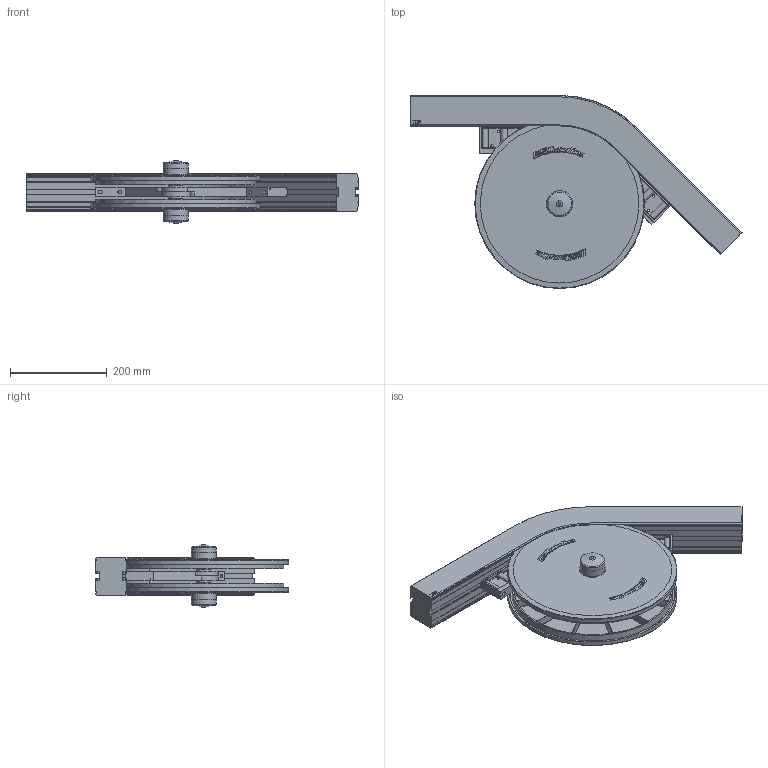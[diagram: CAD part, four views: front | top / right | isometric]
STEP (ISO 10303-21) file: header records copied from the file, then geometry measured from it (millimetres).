
FILE_DESCRIPTION((''),'2;1');
FILE_NAME('C:\Vault Klient\Projekt\Koncept konstruktion\Serie 620 Hjulkurva\620-5030.stp','2010-11-12T12:36:05',('Mathias'),(''),'Autodesk Inventor 2011','Autodesk Inventor 2011','');
FILE_SCHEMA(('AUTOMOTIVE_DESIGN { 1 0 10303 214 1 1 1 1 }'));
Length unit declared in the file: millimetre
Products named in the file (5): 620-5030; 620-1000_04; 830-5056; 830-5057; FCWA-0476-025
Assembly tree (7 placements, depth 2):
  620-5030
    620-1000_04
    830-5056  x2
    830-5057  x2
    FCWA-0476-025  x2
Bounding box: 684.68 x 398.5 x 131.93 mm (x, y, z)
Volume: 5001990.9 mm3; surface area: 993844.5 mm2
Topology: 7 solids, 7 shells, 1539 faces, 3850 edges, 2386 vertices
Faces by surface type: plane 831, bspline 278, cylinder 252, torus 82, cone 72, sphere 24
Full cylindrical faces by diameter (mm): 5 x6, 6 x16, 8.2 x4, 8.5 x4, 17 x2, 29.5 x2, 30 x2, 40 x4, 47.6 x2, 50.3 x2, 51.3 x2, 350 x2
Entity records: 29906 total; most frequent: CARTESIAN_POINT 9974, ORIENTED_EDGE 4136, DIRECTION 3836, EDGE_CURVE 2068, VERTEX_POINT 1326, VECTOR 1280, LINE 1280, AXIS2_PLACEMENT_3D 1278
